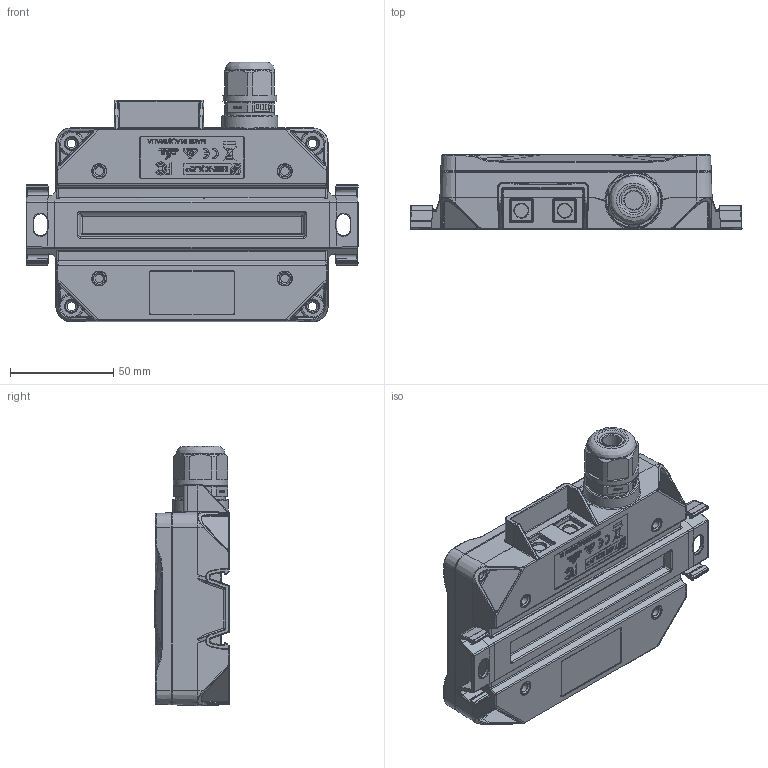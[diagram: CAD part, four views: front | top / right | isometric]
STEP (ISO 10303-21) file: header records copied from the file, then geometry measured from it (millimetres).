
FILE_DESCRIPTION (( 'STEP AP214' ), '1' );
FILE_NAME ('QUAD V2 defeatured body.STEP', '2026-09-02T03:14:35', ( '' ), ( '' ), 'SwSTEP 2.0', 'SolidWorks 2025', '' );
FILE_SCHEMA (( 'AUTOMOTIVE_DESIGN' ));
Products named in the file (1): QUAD V2 defeatured body
Bounding box: 160.98 x 36.3 x 125.81 mm (x, y, z)
Surface area: 64276.5 mm2 (no closed solid volume)
Topology: 0 solids, 27 shells, 4396 faces, 10728 edges, 6713 vertices
Faces by surface type: plane 1734, bspline 1473, cylinder 593, torus 455, cone 98, sphere 43
Full cylindrical faces by diameter (mm): 0.13 x1, 1.406 x1, 1.474 x1, 4.2 x8, 6 x4, 6.107 x4, 6.295 x4, 9 x1, 12.1 x1, 20 x1, 23.7 x1, 24 x1, 26.4 x1, 27 x1
Entity records: 170893 total; most frequent: CARTESIAN_POINT 80555, ORIENTED_EDGE 20593, DIRECTION 14617, EDGE_CURVE 10473, VERTEX_POINT 6668, EDGE_LOOP 5041, LINE 4899, VECTOR 4899
